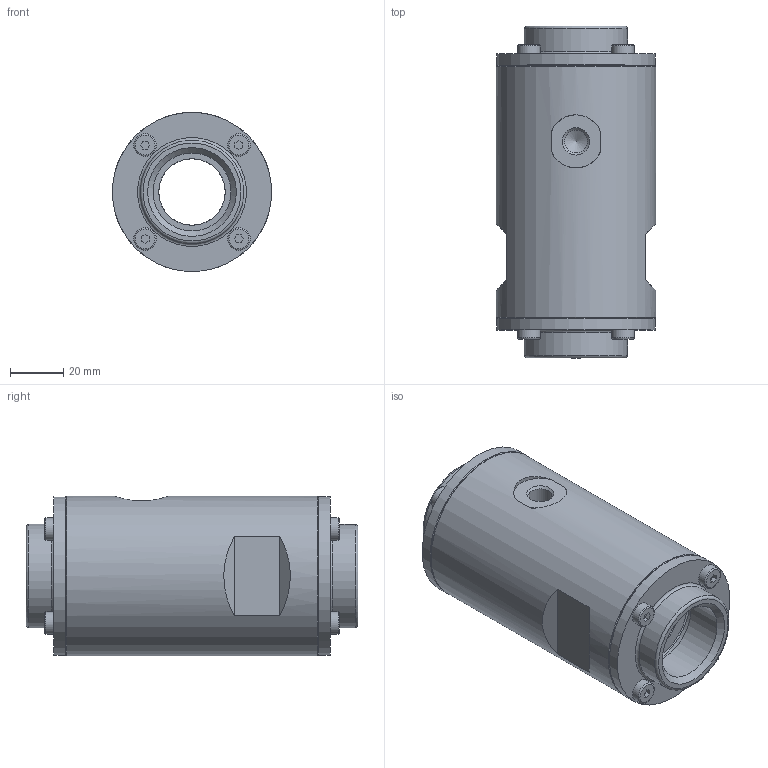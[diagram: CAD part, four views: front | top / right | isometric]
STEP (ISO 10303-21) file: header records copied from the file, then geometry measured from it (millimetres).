
FILE_DESCRIPTION(/* description */ (''),/* implementation_level */ '2;1');
FILE_NAME(/* name */ 'Serie70_QV25_assembly_VEREINFACHT.stp',/* time_stamp */ '2013-10-05T11:47:51+02:00',/* author */ (''),/* organization */ (''),/* preprocessor_version */ 'ST-DEVELOPER v11',/* originating_system */ 'SIEMENS PLM Software NX 7.5',/* authorisation */ '');
FILE_SCHEMA (('AUTOMOTIVE_DESIGN { 1 0 10303 214 1 1 1 1 }'));
Length unit declared in the file: millimetre
Products named in the file (1): memd369C6jr0
Bounding box: 60 x 125 x 60 mm (x, y, z)
Volume: 244449 mm3; surface area: 64222.5 mm2
Topology: 27 solids, 27 shells, 292 faces, 626 edges, 404 vertices
Faces by surface type: plane 139, cylinder 91, torus 34, cone 28
Full cylindrical faces by diameter (mm): 4.13 x16, 4.2 x8, 5 x24, 5.2 x8, 5.4 x8, 8.5 x8, 8.611 x1, 25 x3, 29.37 x2, 34.9 x2, 39 x2, 55.8 x2, 56 x2, 60 x3
Entity records: 7153 total; most frequent: CARTESIAN_POINT 1362, DIRECTION 1226, ORIENTED_EDGE 818, AXIS2_PLACEMENT_3D 536, EDGE_LOOP 498, FACE_BOUND 419, EDGE_CURVE 409, VERTEX_POINT 348
